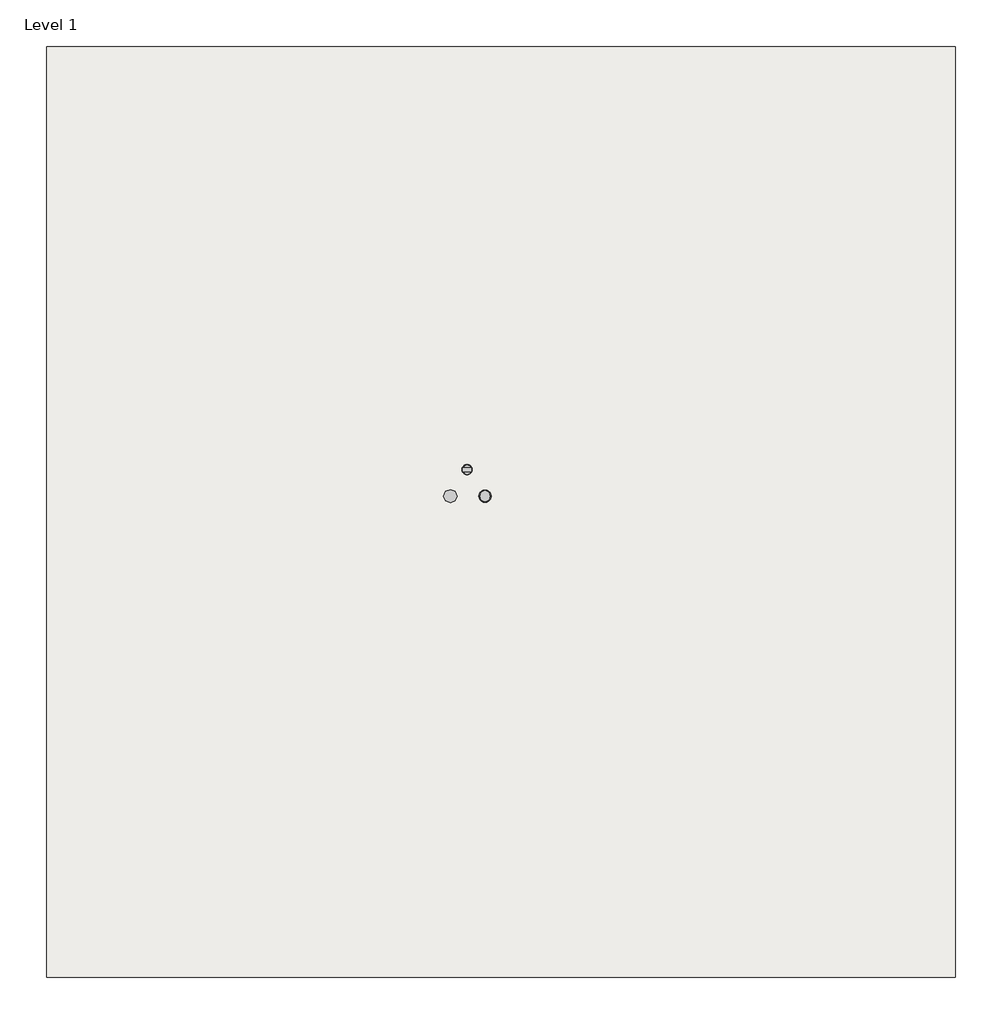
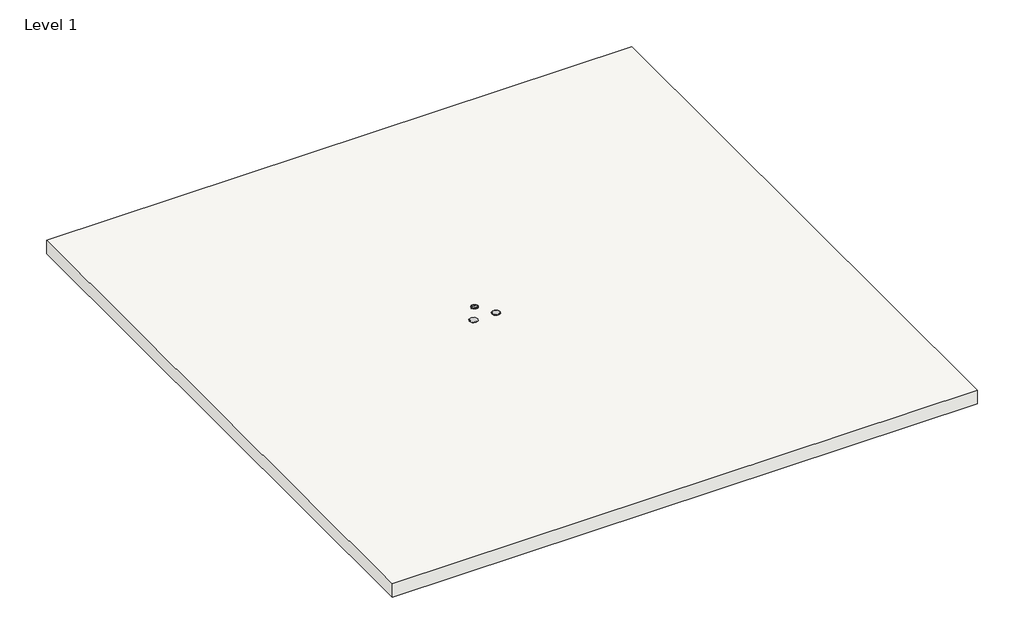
# One storey: 3 proxies, 1 slab.
"""IFC4 building model written with IfcOpenShell, lengths in millimetres."""

from ifc_helpers import new_model, si_unit, frame, origin, place, context, project, spatial, polyline, circle_curve, transform, mapped, element, save
from ifc_brep_helpers import plane_surface, revolved_surface, advanced_brep
from components import flush_bronze_f38398a0, surface_black_213584b3, surface_nickel_aae4faf7

model = new_model("IFC4")

# Units and contexts
model_context = context("Model", 3, world=origin())
ifc_project = project(units=[si_unit("LENGTHUNIT", "METRE", prefix="MILLI")], contexts=[model_context])

# Site, building, storey
site = spatial("IfcSite", under=ifc_project)
building = spatial("IfcBuilding", under=site)
storey = spatial("IfcBuildingStorey", under=building, Name="Level 1", Elevation=0.0)

# Proxies
placement = place(None, origin())
flush_bronze_shape = flush_bronze_f38398a0(model_context)
element("IfcBuildingElementProxy", 1, Name="Poke_Thru-Evolution_6AT_Series-Wiremold-Prewired_Audio_Video : Flush-Bronze", ObjectType="Poke_Thru-Evolution_6AT_Series-Wiremold-Prewired_Audio_Video : Flush-Bronze", at=placement, inside=storey, context=model_context, shape_type="MappedRepresentation", body=[
    mapped(flush_bronze_shape, transform((-7711.4265586, -4729.4384938, 0.0), x_axis=(-1.0, 0.0, 0.0), y_axis=(0.0, -1.0, 0.0), z_axis=(0.0, 0.0, 1.0))),
])
surface_black_shape = surface_black_213584b3(model_context)
element("IfcBuildingElementProxy", 2, Name="Poke_Thru-Evolution_6AT_Series-Wiremold-Prewired_Audio_Video : Surface-Black", ObjectType="Poke_Thru-Evolution_6AT_Series-Wiremold-Prewired_Audio_Video : Surface-Black", at=placement, inside=storey, context=model_context, shape_type="MappedRepresentation", body=[
    mapped(surface_black_shape, transform((-7228.3679232, -4729.4384938, 0.0), x_axis=(1.0, 0.0, 0.0), y_axis=(0.0, 1.0, 0.0), z_axis=(0.0, 0.0, 1.0))),
])
surface_nickel_shape = surface_nickel_aae4faf7(model_context)
element("IfcBuildingElementProxy", 3, Name="Poke_Thru-Evolution_6AT_Series-Wiremold-Prewired_Audio_Video : Surface-Nickel", ObjectType="Poke_Thru-Evolution_6AT_Series-Wiremold-Prewired_Audio_Video : Surface-Nickel", at=placement, inside=storey, context=model_context, shape_type="MappedRepresentation", body=[
    mapped(surface_nickel_shape, transform((-7478.0914398, -4359.0838363, 0.0), x_axis=(0.0, 1.0, 0.0), y_axis=(-1.0, 0.0, 0.0), z_axis=(0.0, 0.0, 1.0))),
])

# Slab
element("IfcSlab", 4, ObjectType="Generic - 12\"", at=placement, inside=storey, context=model_context, shape_type="AdvancedBrep", body=[
    advanced_brep(
    [(-684.3512413, 1527.3905092, -304.8), (-684.3512413, -11426.6094908, -304.8), (-13333.5512413, -11426.6094908, -304.8), (-13333.5512413, 1527.3905092, -304.8), (-684.3512413, -11426.6094908, 0.0), (-684.3512413, 1527.3905092, 0.0), (-13333.5512413, 1527.3905092, 0.0), (-13333.5512413, -11426.6094908, 0.0), (-7478.0914398, -4287.8303687, 0.0), (-7478.0914398, -4430.337304, 0.0), (-7478.0914398, -4430.337304, -12.7), (-7478.0914398, -4287.8303687, -12.7)],
    [
        (0, 1),
        (1, 2),
        (2, 3),
        (3, 0),
        (4, 5),
        (5, 6),
        (6, 7),
        (7, 4),
        (8, 9, circle_curve(frame((-7478.0914398, -4359.0838363, 0.0), z_axis=(0.0, 0.0, -1.0), x_axis=(0.0, 1.0, 0.0)), 71.2534677)),
        (9, 8, circle_curve(frame((-7478.0914398, -4359.0838363, 0.0), z_axis=(0.0, 0.0, -1.0), x_axis=(0.0, 1.0, 0.0)), 71.2534677)),
        (0, 5),
        (4, 1),
        (7, 2),
        (6, 3),
        (10, 11, circle_curve(frame((-7478.0914398, -4359.0838363, -12.7), z_axis=(0.0, 0.0, 1.0), x_axis=(0.0, 1.0, 0.0)), 71.2534677)),
        (11, 10, circle_curve(frame((-7478.0914398, -4359.0838363, -12.7), z_axis=(0.0, 0.0, 1.0), x_axis=(0.0, 1.0, 0.0)), 71.2534677)),
        (10, 9),
        (8, 11),
    ],
    [
        plane_surface(frame((-684.3512413, 1527.3905092, -304.8), z_axis=(0.0, 0.0, -1.0), x_axis=(0.0, -1.0, 0.0))),
        plane_surface(frame((-684.3512413, 1527.3905092, 0.0), z_axis=(0.0, 0.0, 1.0), x_axis=(0.0, 1.0, 0.0))),
        plane_surface(frame((-684.3512413, 1527.3905092, -304.8), z_axis=(1.0, 0.0, 0.0), x_axis=(0.0, 0.0, 1.0))),
        plane_surface(frame((-684.3512413, -11426.6094908, -304.8), z_axis=(0.0, -1.0, 0.0), x_axis=(0.0, 0.0, 1.0))),
        plane_surface(frame((-13333.5512413, -11426.6094908, -304.8), z_axis=(-1.0, 0.0, 0.0), x_axis=(0.0, 0.0, 1.0))),
        plane_surface(frame((-13333.5512413, 1527.3905092, -304.8), z_axis=(0.0, 1.0, 0.0), x_axis=(0.0, 0.0, 1.0))),
        plane_surface(frame((-7478.0914398, -4287.8303687, -12.7), z_axis=(0.0, 0.0, 1.0), x_axis=(1.0, 0.0, 0.0))),
        revolved_surface(polyline([(-7478.0914398, -4287.8303686, 0.0), (-7478.0914398, -4287.8303686, -12.7)]), (-7478.0914398, -4359.0838363, -12.7), (0.0, 0.0, 1.0)),
    ],
    [
        (0, [[1, 2, 3, 4]]),
        (1, [[5, 6, 7, 8], [9, 10]]),
        (2, [[-1, 11, -5, 12]]),
        (3, [[-2, -12, -8, 13]]),
        (4, [[-3, -13, -7, 14]]),
        (5, [[-4, -14, -6, -11]]),
        (6, [[15, 16]]),
        (7, [[-15, 17, -9, 18]]),
        (7, [[-16, -18, -10, -17]]),
    ],
),
])

save(model, "model.ifc")
